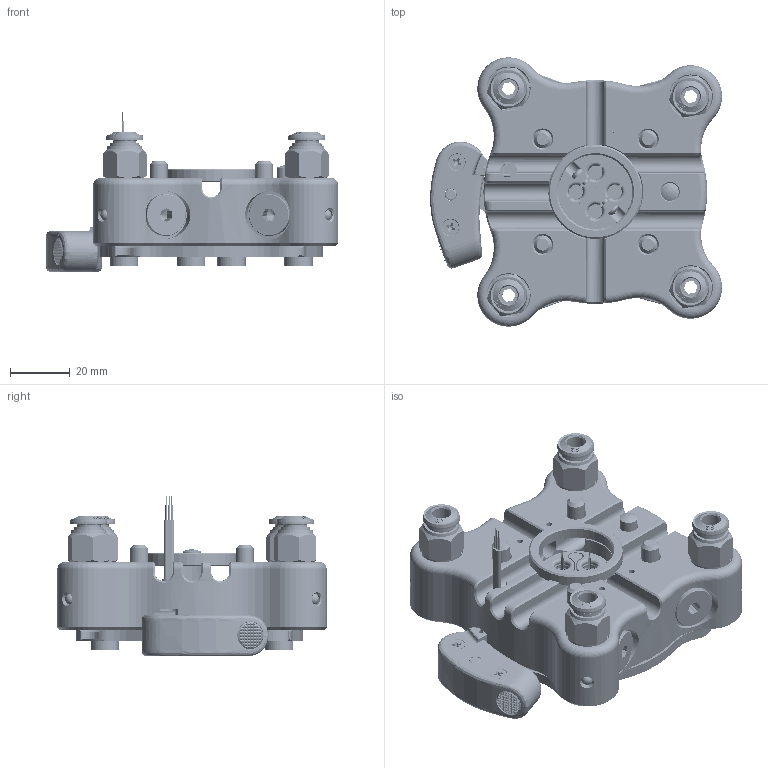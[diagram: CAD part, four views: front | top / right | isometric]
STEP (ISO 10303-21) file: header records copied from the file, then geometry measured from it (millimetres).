
FILE_DESCRIPTION (( 'STEP AP203' ), '1' );
FILE_NAME ('KIT-TM-QC75-A.STEP', '2021-08-30T06:40:27', ( '' ), ( '' ), 'SwSTEP 2.0', 'SolidWorks 2020', '' );
FILE_SCHEMA (( 'CONFIG_CONTROL_DESIGN' ));
Products named in the file (2): KIT-TM-QC75-A; Copia di KIT-TM-QC75-A-AS01^KIT-TM-QC75-A
Assembly tree (1 placements, depth 2):
  KIT-TM-QC75-A
    Copia di KIT-TM-QC75-A-AS01^KIT-TM-QC75-A
Bounding box: 97.94 x 90.33 x 53.75 mm (x, y, z)
Volume: 125956.3 mm3; surface area: 84002 mm2
Topology: 64 solids, 64 shells, 4818 faces, 11774 edges, 7237 vertices
Faces by surface type: plane 2097, cylinder 1549, cone 596, bspline 289, torus 216, sphere 71
Entity records: 178500 total; most frequent: CARTESIAN_POINT 66028, DIRECTION 23531, ORIENTED_EDGE 23380, EDGE_CURVE 11690, AXIS2_PLACEMENT_3D 8747, VERTEX_POINT 7221, VECTOR 6037, LINE 6037
